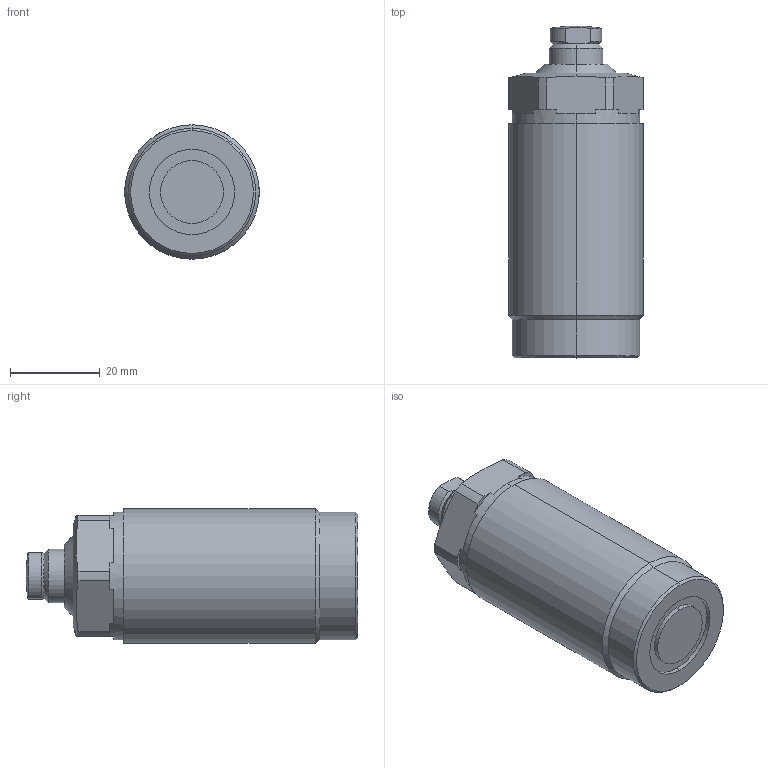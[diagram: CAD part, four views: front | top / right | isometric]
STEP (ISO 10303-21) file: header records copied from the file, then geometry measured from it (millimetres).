
FILE_DESCRIPTION (( 'STEP AP203' ), '1' );
FILE_NAME ('TW09-M301 Work support.SLDPRT.STEP', '2022-07-09T17:15:00', ( '' ), ( '' ), 'SwSTEP 2.0', 'SolidWorks 2017', '' );
FILE_SCHEMA (( 'CONFIG_CONTROL_DESIGN' ));
Length unit declared in the file: millimetre
Products named in the file (4): TW09-M301 part-3; TW09-M301 Work support.SLDPRT; TW09-M301 part-1; TW09-M301 part-2
Assembly tree (3 placements, depth 2):
  TW09-M301 Work support.SLDPRT
    TW09-M301 part-1
    TW09-M301 part-2
    TW09-M301 part-3
Bounding box: 30 x 74 x 30 mm (x, y, z)
Volume: 48433.1 mm3; surface area: 10229.3 mm2
Topology: 3 solids, 3 shells, 256 faces, 659 edges, 432 vertices
Faces by surface type: plane 128, bspline 71, cylinder 30, cone 25, torus 2
Entity records: 11935 total; most frequent: CARTESIAN_POINT 5852, ORIENTED_EDGE 1310, DIRECTION 915, EDGE_CURVE 655, VERTEX_POINT 432, LINE 349, VECTOR 349, AXIS2_PLACEMENT_3D 283
